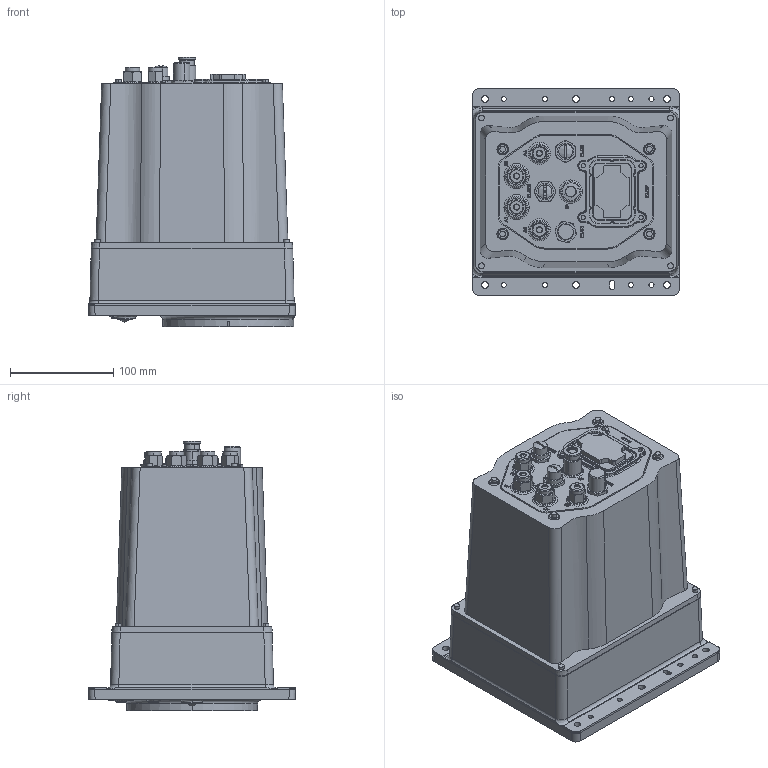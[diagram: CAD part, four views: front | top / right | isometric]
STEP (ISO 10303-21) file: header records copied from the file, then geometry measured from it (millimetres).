
FILE_DESCRIPTION (( 'STEP AP214' ), '1' );
FILE_NAME ('Link0_C550_IP54CR.step', '2019-10-23T07:38:08', ( '' ), ( '' ), 'SwSTEP 2.0', 'SolidWorks 2018', '' );
FILE_SCHEMA (( 'AUTOMOTIVE_DESIGN' ));
Length unit declared in the file: millimetre
Products named in the file (1): Link0_C550_IP54CR
Bounding box: 200 x 200 x 261 mm (x, y, z)
Volume: 6099632.4 mm3; surface area: 239663.6 mm2
Topology: 1 solids, 8 shells, 1401 faces, 3575 edges, 2302 vertices
Faces by surface type: plane 589, cylinder 324, bspline 230, cone 162, torus 72, sphere 24
Entity records: 55724 total; most frequent: CARTESIAN_POINT 23610, ORIENTED_EDGE 7062, DIRECTION 5935, EDGE_CURVE 3531, VERTEX_POINT 2284, AXIS2_PLACEMENT_3D 2085, VECTOR 1765, LINE 1765
